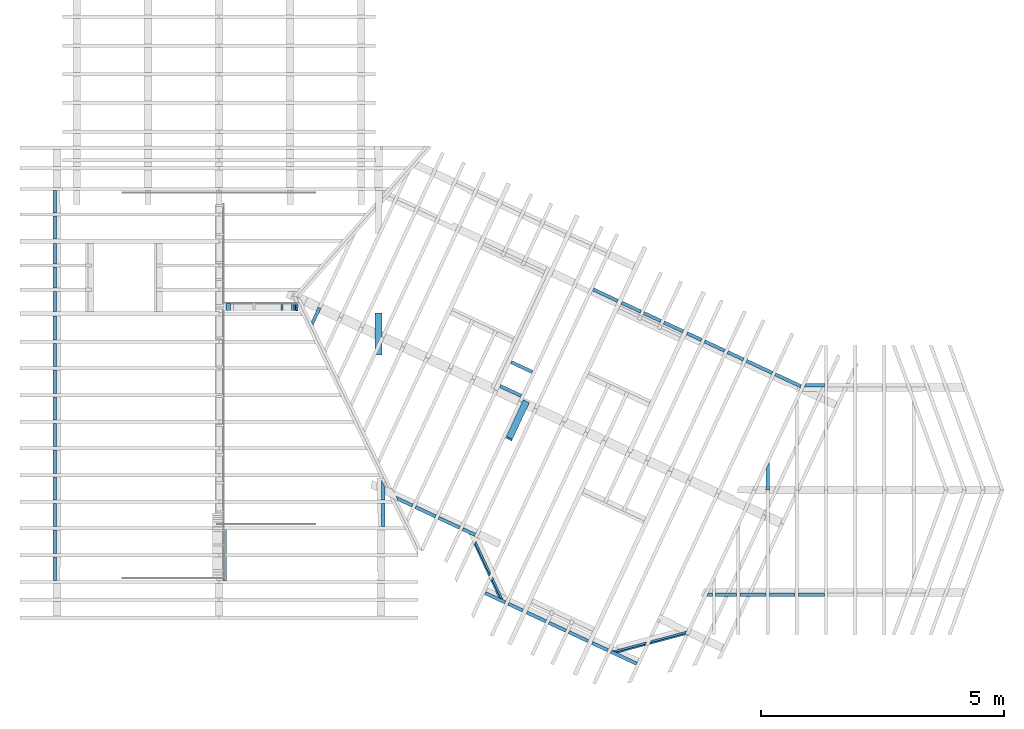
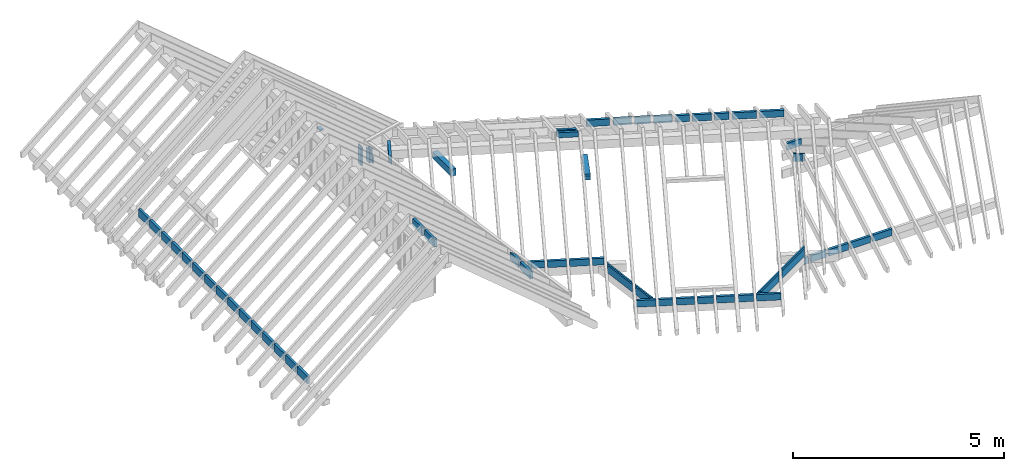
# One storey, part 8 of 11: 62 members.
"""IFC2X3 building model written with IfcOpenShell, lengths in metres."""

from ifc_helpers import new_model, si_unit, direction, frame, origin_with_axes, place, context, subcontext, project, spatial, faceted_brep, material, element, save


model = new_model("IFC2X3")

# Units and contexts
model_context = context("Model", 3, precision=1e-06, world=origin_with_axes(), true_north=direction((0.0, 1.0, 0.0)))
body_context = subcontext(model_context, "Body", "Model", "MODEL_VIEW")
ifc_project = project(units=[si_unit("LENGTHUNIT", "METRE"), si_unit("AREAUNIT", "SQUARE_METRE"), si_unit("VOLUMEUNIT", "CUBIC_METRE"), si_unit("PLANEANGLEUNIT", "RADIAN")], contexts=[model_context])

# Site, building, storey
site_placement = place(None, origin_with_axes())
site = spatial("IfcSite", under=ifc_project, at=site_placement, CompositionType="ELEMENT")
building_placement = place(site_placement, origin_with_axes())
building = spatial("IfcBuilding", under=site, at=building_placement, Name="Building 1", CompositionType="ELEMENT")
storey_placement = place(building_placement, origin_with_axes())
storey = spatial("IfcBuildingStorey", under=building, at=storey_placement, Name="Comble et couverture", CompositionType="ELEMENT", Elevation=0.0)

# Members
ifc_material_1 = material(Name="NH II")
member_1_placement = place(storey_placement, frame((-0.02, 3.1742093, 4.3328151), z_axis=(0.0, 0.0, 1.0), x_axis=(0.0, -1.0, 0.0)))
element("IfcMember", 1, at=member_1_placement, inside=storey, material=ifc_material_1, Name="Cache moineau", context=body_context, shape_type="Brep", body=[
    faceted_brep([(0.4775953, 0.035, -0.11), (0.4775953, 0.035, 0.11), (0.4775953, -0.035, 0.11), (0.4775953, -0.035, -0.11), (0.0, 0.035, 0.11), (0.0, -0.035, 0.11), (0.0, 0.035, -0.11), (0.0, -0.035, -0.11)], [[[0, 1, 2, 3]], [[2, 1, 4, 5]], [[1, 0, 6, 4]], [[5, 4, 6, 7]], [[3, 2, 5, 7]], [[0, 3, 7, 6]]]),
])
member_2_placement = place(storey_placement, frame((11.4234369, -1.5371509, 3.6092536), z_axis=(-0.3360717, -0.0900501, 0.9375216), x_axis=(0.9055763, 0.2426485, 0.347927)))
element("IfcMember", 2, at=member_2_placement, inside=storey, material=ifc_material_1, Name="Cache moineau", context=body_context, shape_type="Brep", body=[
    faceted_brep([(0.0747085, 0.0341609, 0.11), (0.0747085, 0.035, 0.11), (0.0, 0.035, -0.0913089), (0.0, 0.0341609, -0.0913089), (0.8413016, 0.035, 0.11), (0.7596566, 0.035, -0.11), (0.050365, 0.035, -0.11), (0.1253784, -0.0056999, 0.11), (0.8048744, -0.0056999, 0.11), (0.050365, -0.0109167, -0.11), (0.6970052, -0.035, -0.11), (0.080979, -0.035, -0.11), (0.7741415, -0.035, 0.0978509), (0.1581153, -0.035, 0.0978509)], [[[0, 1, 2, 3]], [[2, 1, 4, 5, 6]], [[1, 0, 7, 8, 4]], [[3, 2, 6, 9]], [[9, 6, 5, 10, 11]], [[10, 5, 4, 8, 12]], [[0, 3, 9, 11, 13, 7]], [[10, 12, 13, 11]], [[12, 8, 7, 13]]]),
])
member_3_placement = place(storey_placement, frame((12.9673592, 5.0279755, 4.2870549), z_axis=(0.0, 0.0, 1.0), x_axis=(0.9063078, -0.4226183, 0.0)))
element("IfcMember", 3, at=member_3_placement, inside=storey, material=ifc_material_1, Name="Cache moineau", context=body_context, shape_type="Brep", body=[
    faceted_brep([(0.0, 0.035, 0.096), (0.0, 0.035, -0.096), (0.0, -0.035, -0.096), (0.0, -0.035, 0.096), (0.3256193, 0.035, -0.096), (0.3256193, -0.035, -0.096), (0.3256193, 0.035, 0.096), (0.3256193, -0.035, 0.096)], [[[0, 1, 2, 3]], [[2, 1, 4, 5]], [[1, 0, 6, 4]], [[5, 4, 6, 7]], [[3, 2, 5, 7]], [[0, 3, 7, 6]]]),
])
member_4_placement = place(storey_placement, frame((6.728, 1.6014234, 4.3328151), z_axis=(0.0, 0.0, 1.0), x_axis=(0.0, 1.0, 0.0)))
element("IfcMember", 4, at=member_4_placement, inside=storey, material=ifc_material_1, Name="Cache moineau", context=body_context, shape_type="Brep", body=[
    faceted_brep([(0.0, 0.035, 0.11), (0.0, 0.035, -0.11), (0.0, -0.035, -0.11), (0.0, -0.035, 0.11), (0.4051521, 0.035, -0.11), (0.2602594, -0.035, -0.11), (0.4051521, 0.035, 0.11), (0.2602594, -0.035, 0.11)], [[[0, 1, 2, 3]], [[2, 1, 4, 5]], [[1, 0, 6, 4]], [[5, 4, 6, 7]], [[0, 3, 7, 6]], [[3, 2, 5, 7]]]),
])
member_5_placement = place(storey_placement, frame((11.0398183, 5.9268026, 4.2870549), z_axis=(0.0, 0.0, 1.0), x_axis=(0.9063078, -0.4226183, 0.0)))
element("IfcMember", 5, at=member_5_placement, inside=storey, material=ifc_material_1, Name="Cache moineau", context=body_context, shape_type="Brep", body=[
    faceted_brep([(0.552806, 0.035, 0.096), (0.552806, -0.035, 0.096), (0.552806, -0.035, -0.096), (0.552806, 0.035, -0.096), (0.0, -0.035, 0.096), (0.0, -0.035, -0.096), (0.0, 0.035, 0.096), (0.0, 0.035, -0.096)], [[[0, 1, 2, 3]], [[2, 1, 4, 5]], [[1, 0, 6, 4]], [[5, 4, 6, 7]], [[3, 2, 5, 7]], [[0, 3, 7, 6]]]),
])
member_6_placement = place(storey_placement, frame((13.484553, -0.3402201, 3.276), z_axis=(0.0, 0.0, 1.0), x_axis=(-1.0, 0.0, 0.0)))
element("IfcMember", 6, at=member_6_placement, inside=storey, material=ifc_material_1, Name="Cache moineau", context=body_context, shape_type="Brep", body=[
    faceted_brep([(0.0, -0.035, -0.096), (0.0, -0.035, 0.096), (0.0, 0.035, 0.096), (0.0, 0.035, -0.096), (0.0812557, -0.035, 0.096), (0.1138973, 0.035, 0.096), (0.0812557, -0.035, -0.096), (0.1138973, 0.035, -0.096)], [[[0, 1, 2, 3]], [[2, 1, 4, 5]], [[1, 0, 6, 4]], [[0, 3, 7, 6]], [[3, 2, 5, 7]], [[5, 4, 6, 7]]]),
])
member_7_placement = place(storey_placement, frame((13.554553, -0.3402201, 3.276), z_axis=(0.0, 0.0, 1.0), x_axis=(1.0, 0.0, 0.0)))
element("IfcMember", 7, at=member_7_placement, inside=storey, material=ifc_material_1, Name="Cache moineau", context=body_context, shape_type="Brep", body=[
    faceted_brep([(0.0, 0.035, -0.096), (0.0, -0.035, -0.096), (0.0, -0.035, 0.096), (0.0, 0.035, 0.096), (0.43, -0.035, -0.096), (0.43, -0.035, 0.096), (0.43, 0.035, -0.096), (0.43, 0.035, 0.096)], [[[0, 1, 2, 3]], [[2, 1, 4, 5]], [[1, 0, 6, 4]], [[5, 4, 6, 7]], [[3, 2, 5, 7]], [[0, 3, 7, 6]]]),
])
ifc_material_2 = material(Name="Epicéa C24")
member_8_placement = place(storey_placement, frame((4.9534144, 5.5627176, 5.6894456), z_axis=(0.0, 1.0, 0.0), x_axis=(0.0, 0.0, -1.0)))
element("IfcMember", 8, at=member_8_placement, inside=storey, material=ifc_material_2, Name="Montant", context=body_context, shape_type="Brep", body=[
    faceted_brep([(0.0, 0.0192672, -0.0725), (0.0, 0.0192672, 0.0725), (0.1901403, 0.0192672, 0.0725), (0.1901403, 0.0192672, -0.0725), (0.0, -0.0192672, 0.0725), (0.1901403, -0.0192672, 0.0725), (0.0, -0.0192672, -0.0725), (0.1901403, -0.0192672, -0.0725)], [[[0, 1, 2, 3]], [[2, 1, 4, 5]], [[1, 0, 6, 4]], [[4, 6, 7, 5]], [[0, 3, 7, 6]], [[3, 2, 5, 7]]]),
])
member_9_placement = place(storey_placement, frame((3.4689187, 0.9838281, 7.0673725), z_axis=(0.0, 0.0, 1.0), x_axis=(0.0, -1.0, 0.0)))
element("IfcMember", 9, at=member_9_placement, inside=storey, material=ifc_material_1, Name="Cache moineau", context=body_context, shape_type="Brep", body=[
    faceted_brep([(0.4804141, 0.035, -0.11), (0.4804141, 0.035, 0.11), (0.4804141, -0.035, 0.11), (0.4804141, -0.035, -0.11), (0.0, 0.035, 0.11), (0.0, -0.035, 0.11), (0.0, 0.035, -0.11), (0.0, -0.035, -0.11)], [[[0, 1, 2, 3]], [[2, 1, 4, 5]], [[1, 0, 6, 4]], [[5, 4, 6, 7]], [[3, 2, 5, 7]], [[0, 3, 7, 6]]]),
])
member_10_placement = place(storey_placement, frame((4.9116472, 5.5627176, 5.9287735), z_axis=(0.0, 1.0, 0.0), x_axis=(0.0, 0.0, -1.0)))
element("IfcMember", 10, at=member_10_placement, inside=storey, material=ifc_material_2, Name="Montant", context=body_context, shape_type="Brep", body=[
    faceted_brep([(0.0, 0.0225, -0.0725), (0.0, -0.0225, -0.0725), (0.0, -0.0225, 0.0725), (0.0, 0.0225, 0.0725), (0.3844682, -0.0225, -0.0725), (0.3844682, -0.0225, 0.0725), (0.3844682, 0.0225, -0.0725), (0.3844682, 0.0225, 0.0725)], [[[0, 1, 2, 3]], [[2, 1, 4, 5]], [[1, 0, 6, 4]], [[0, 3, 7, 6]], [[3, 2, 5, 7]], [[4, 6, 7, 5]]]),
])
member_11_placement = place(storey_placement, frame((8.3589629, 1.0034938, 4.1946408), z_axis=(0.0, 0.0, 1.0), x_axis=(0.9063078, -0.4226183, 0.0)))
element("IfcMember", 11, at=member_11_placement, inside=storey, material=ifc_material_1, Name="Cache moineau", context=body_context, shape_type="Brep", body=[
    faceted_brep([(0.0, -0.035, 0.096), (0.0, 0.035, 0.096), (0.0, 0.035, -0.096), (0.0, -0.035, -0.096), (0.279, 0.035, 0.096), (0.279, 0.035, -0.096), (0.279, -0.035, 0.096), (0.279, -0.035, -0.096)], [[[0, 1, 2, 3]], [[2, 1, 4, 5]], [[1, 0, 6, 4]], [[0, 3, 7, 6]], [[3, 2, 5, 7]], [[5, 4, 6, 7]]]),
])
member_12_placement = place(storey_placement, frame((-0.02, 6.8655905, 4.3328151), z_axis=(0.0, 0.0, 1.0), x_axis=(0.0, -1.0, 0.0)))
element("IfcMember", 12, at=member_12_placement, inside=storey, material=ifc_material_1, Name="Cache moineau", context=body_context, shape_type="Brep", body=[
    faceted_brep([(0.413, -0.035, 0.11), (0.413, 0.035, 0.11), (0.0, 0.035, 0.11), (0.0, -0.035, 0.11), (0.413, 0.035, -0.11), (0.0, 0.035, -0.11), (0.413, -0.035, -0.11), (0.0, -0.035, -0.11)], [[[0, 1, 2, 3]], [[1, 4, 5, 2]], [[4, 6, 7, 5]], [[6, 0, 3, 7]], [[0, 6, 4, 1]], [[5, 7, 3, 2]]]),
])
member_13_placement = place(storey_placement, frame((-0.02, 5.3835905, 4.3328151), z_axis=(0.0, 0.0, 1.0), x_axis=(0.0, -1.0, 0.0)))
element("IfcMember", 13, at=member_13_placement, inside=storey, material=ifc_material_1, Name="Cache moineau", context=body_context, shape_type="Brep", body=[
    faceted_brep([(0.4965953, -0.035, -0.11), (0.4965953, -0.035, 0.11), (0.0, -0.035, 0.11), (0.0, -0.035, -0.11), (0.4965953, 0.035, -0.11), (0.0, 0.035, -0.11), (0.4965953, 0.035, 0.11), (0.0, 0.035, 0.11)], [[[0, 1, 2, 3]], [[4, 0, 3, 5]], [[6, 4, 5, 7]], [[1, 6, 7, 2]], [[4, 6, 1, 0]], [[2, 7, 5, 3]]]),
])
member_14_placement = place(storey_placement, frame((15.784553, 3.9597799, 3.276), z_axis=(0.0, 0.0, 1.0), x_axis=(-1.0, 0.0, 0.0)))
element("IfcMember", 14, at=member_14_placement, inside=storey, material=ifc_material_1, Name="Cache moineau", context=body_context, shape_type="Brep", body=[
    faceted_brep([(0.0, -0.035, -0.096), (0.0, -0.035, 0.096), (0.0, 0.035, 0.096), (0.0, 0.035, -0.096), (0.3761328, -0.035, 0.096), (0.4087743, 0.035, 0.096), (0.3761328, -0.035, -0.096), (0.4087743, 0.035, -0.096)], [[[0, 1, 2, 3]], [[2, 1, 4, 5]], [[1, 0, 6, 4]], [[0, 3, 7, 6]], [[3, 2, 5, 7]], [[5, 4, 6, 7]]]),
])
member_15_placement = place(storey_placement, frame((6.626, 5.4452176, 5.206), z_axis=(0.0, 0.0, 1.0), x_axis=(0.0, -1.0, 0.0)))
element("IfcMember", 15, at=member_15_placement, inside=storey, material=ifc_material_2, Name="Linteau", context=body_context, shape_type="Brep", body=[
    faceted_brep([(0.87, 0.07, -0.1), (0.87, 0.07, 0.1), (0.87, -0.07, 0.1), (0.87, -0.07, -0.1), (0.0, 0.07, 0.1), (0.0, 0.07, -0.1), (0.0, -0.07, -0.1), (0.0, -0.07, 0.1)], [[[0, 1, 2, 3]], [[4, 5, 6, 7]], [[3, 6, 5, 0]], [[2, 7, 6, 3]], [[1, 4, 7, 2]], [[0, 5, 4, 1]]]),
])
member_16_placement = place(storey_placement, frame((-0.02, 6.3825905, 4.3328151), z_axis=(0.0, 0.0, 1.0), x_axis=(0.0, -1.0, 0.0)))
element("IfcMember", 16, at=member_16_placement, inside=storey, material=ifc_material_1, Name="Cache moineau", context=body_context, shape_type="Brep", body=[
    faceted_brep([(0.424, 0.035, -0.11), (0.424, -0.035, -0.11), (0.0, -0.035, -0.11), (0.0, 0.035, -0.11), (0.424, -0.035, 0.11), (0.0, -0.035, 0.11), (0.424, 0.035, 0.11), (0.0, 0.035, 0.11)], [[[0, 1, 2, 3]], [[1, 4, 5, 2]], [[4, 6, 7, 5]], [[6, 0, 3, 7]], [[0, 6, 4, 1]], [[5, 7, 3, 2]]]),
])
member_17_placement = place(storey_placement, frame((12.0800838, 5.4417188, 4.2870549), z_axis=(0.0, 0.0, 1.0), x_axis=(0.9063078, -0.4226183, 0.0)))
element("IfcMember", 17, at=member_17_placement, inside=storey, material=ifc_material_1, Name="Cache moineau", context=body_context, shape_type="Brep", body=[
    faceted_brep([(0.384, -0.035, -0.096), (0.384, 0.035, -0.096), (0.384, 0.035, 0.096), (0.384, -0.035, 0.096), (0.0, 0.035, -0.096), (0.0, 0.035, 0.096), (0.0, -0.035, -0.096), (0.0, -0.035, 0.096)], [[[0, 1, 2, 3]], [[2, 1, 4, 5]], [[1, 0, 6, 4]], [[5, 4, 6, 7]], [[3, 2, 5, 7]], [[0, 3, 7, 6]]]),
])
for number, where, z_axis, x_axis in (
    (18, (14.654553, -0.3402201, 3.276), (0.0, 0.0, 1.0), (1.0, 0.0, 0.0)),
    (19, (15.254553, -0.3402201, 3.276), (0.0, 0.0, 1.0), (1.0, 0.0, 0.0)),
):
    element("IfcMember", number, at=place(storey_placement, frame(where, z_axis=z_axis, x_axis=x_axis)), inside=storey, material=ifc_material_1, Name="Cache moineau", context=body_context, shape_type="Brep", body=[
        faceted_brep([(0.0, -0.035, 0.096), (0.0, 0.035, 0.096), (0.0, 0.035, -0.096), (0.0, -0.035, -0.096), (0.53, 0.035, 0.096), (0.53, 0.035, -0.096), (0.53, -0.035, 0.096), (0.53, -0.035, -0.096)], [[[0, 1, 2, 3]], [[2, 1, 4, 5]], [[1, 0, 6, 4]], [[5, 4, 6, 7]], [[3, 2, 5, 7]], [[0, 3, 7, 6]]]),
    ])
member_18_placement = place(storey_placement, frame((10.5404665, -1.1126276, 3.6196496), z_axis=(0.0, 0.0, 1.0), x_axis=(0.9063078, -0.4226183, 0.0)))
element("IfcMember", 20, at=member_18_placement, inside=storey, material=ifc_material_1, Name="Cache moineau", context=body_context, shape_type="Brep", body=[
    faceted_brep([(0.433, 0.035, 0.096), (0.433, -0.035, 0.096), (0.433, -0.035, -0.096), (0.433, 0.035, -0.096), (0.0, -0.035, 0.096), (0.0, -0.035, -0.096), (0.0, 0.035, 0.096), (0.0, 0.035, -0.096)], [[[0, 1, 2, 3]], [[2, 1, 4, 5]], [[1, 0, 6, 4]], [[5, 4, 6, 7]], [[3, 2, 5, 7]], [[0, 3, 7, 6]]]),
])
member_19_placement = place(storey_placement, frame((-0.02, 7.955, 4.3328151), z_axis=(0.0, 0.0, 1.0), x_axis=(0.0, -1.0, 0.0)))
element("IfcMember", 21, at=member_19_placement, inside=storey, material=ifc_material_1, Name="Cache moineau", context=body_context, shape_type="Brep", body=[
    faceted_brep([(0.4542048, -0.035, 0.11), (0.4542048, -0.035, -0.11), (0.4542048, 0.035, -0.11), (0.4542048, 0.035, 0.11), (0.0, -0.035, -0.11), (0.0, 0.035, -0.11), (0.0, -0.035, 0.11), (0.0, 0.035, 0.11)], [[[0, 1, 2, 3]], [[2, 1, 4, 5]], [[1, 0, 6, 4]], [[5, 4, 6, 7]], [[3, 2, 5, 7]], [[0, 3, 7, 6]]]),
])
member_20_placement = place(storey_placement, frame((7.3248657, 1.4857012, 4.1946408), z_axis=(0.0, 0.0, -1.0), x_axis=(-0.9063078, 0.4226183, 0.0)))
element("IfcMember", 22, at=member_20_placement, inside=storey, material=ifc_material_1, Name="Cache moineau", context=body_context, shape_type="Brep", body=[
    faceted_brep([(0.0, -0.035, -0.096), (0.0, -0.035, 0.096), (0.0, 0.035, 0.096), (0.0, 0.035, -0.096), (0.3088245, -0.035, 0.096), (0.39461, 0.035, 0.096), (0.3088245, -0.035, -0.096), (0.39461, 0.035, -0.096)], [[[0, 1, 2, 3]], [[2, 1, 4, 5]], [[1, 0, 6, 4]], [[5, 4, 6, 7]], [[0, 3, 7, 6]], [[3, 2, 5, 7]]]),
])
member_21_placement = place(storey_placement, frame((-0.02, 7.4307952, 4.3328151), z_axis=(0.0, 0.0, 1.0), x_axis=(0.0, -1.0, 0.0)))
element("IfcMember", 23, at=member_21_placement, inside=storey, material=ifc_material_1, Name="Cache moineau", context=body_context, shape_type="Brep", body=[
    faceted_brep([(0.4732048, 0.035, -0.11), (0.4732048, -0.035, -0.11), (0.0, -0.035, -0.11), (0.0, 0.035, -0.11), (0.4732048, -0.035, 0.11), (0.0, -0.035, 0.11), (0.4732048, 0.035, 0.11), (0.0, 0.035, 0.11)], [[[0, 1, 2, 3]], [[1, 4, 5, 2]], [[4, 6, 7, 5]], [[6, 0, 3, 7]], [[0, 6, 4, 1]], [[5, 7, 3, 2]]]),
])
member_22_placement = place(storey_placement, frame((-0.02, 5.8885905, 4.3328151), z_axis=(0.0, 0.0, 1.0), x_axis=(0.0, -1.0, 0.0)))
element("IfcMember", 24, at=member_22_placement, inside=storey, material=ifc_material_1, Name="Cache moineau", context=body_context, shape_type="Brep", body=[
    faceted_brep([(0.413, -0.035, 0.11), (0.413, 0.035, 0.11), (0.0, 0.035, 0.11), (0.0, -0.035, 0.11), (0.413, 0.035, -0.11), (0.0, 0.035, -0.11), (0.413, -0.035, -0.11), (0.0, -0.035, -0.11)], [[[0, 1, 2, 3]], [[1, 4, 5, 2]], [[4, 6, 7, 5]], [[6, 0, 3, 7]], [[0, 6, 4, 1]], [[5, 7, 3, 2]]]),
])
for number, where, z_axis, x_axis in (
    (25, (-0.02, 2.626614, 4.3328151), (0.0, 0.0, 1.0), (0.0, -1.0, 0.0)),
    (26, (-0.02, 2.0790187, 4.3328151), (0.0, 0.0, 1.0), (0.0, -1.0, 0.0)),
    (27, (-0.02, 3.7218046, 4.3328151), (0.0, 0.0, 1.0), (0.0, -1.0, 0.0)),
    (28, (-0.02, 4.8169952, 4.3328151), (0.0, 0.0, 1.0), (0.0, -1.0, 0.0)),
    (29, (-0.02, 4.2693999, 4.3328151), (0.0, 0.0, 1.0), (0.0, -1.0, 0.0)),
):
    element("IfcMember", number, at=place(storey_placement, frame(where, z_axis=z_axis, x_axis=x_axis)), inside=storey, material=ifc_material_1, Name="Cache moineau", context=body_context, shape_type="Brep", body=[
        faceted_brep([(0.4775953, 0.035, -0.11), (0.4775953, 0.035, 0.11), (0.4775953, -0.035, 0.11), (0.4775953, -0.035, -0.11), (0.0, 0.035, 0.11), (0.0, -0.035, 0.11), (0.0, 0.035, -0.11), (0.0, -0.035, -0.11)], [[[0, 1, 2, 3]], [[2, 1, 4, 5]], [[1, 0, 6, 4]], [[5, 4, 6, 7]], [[3, 2, 5, 7]], [[0, 3, 7, 6]]]),
    ])
member_23_placement = place(storey_placement, frame((-0.02, 0.9838281, 4.3328151), z_axis=(0.0, 0.0, 1.0), x_axis=(0.0, -1.0, 0.0)))
element("IfcMember", 30, at=member_23_placement, inside=storey, material=ifc_material_1, Name="Cache moineau", context=body_context, shape_type="Brep", body=[
    faceted_brep([(0.4804141, 0.035, -0.11), (0.4804141, 0.035, 0.11), (0.4804141, -0.035, 0.11), (0.4804141, -0.035, -0.11), (0.0, 0.035, 0.11), (0.0, -0.035, 0.11), (0.0, 0.035, -0.11), (0.0, -0.035, -0.11)], [[[0, 1, 2, 3]], [[2, 1, 4, 5]], [[1, 0, 6, 4]], [[5, 4, 6, 7]], [[3, 2, 5, 7]], [[0, 3, 7, 6]]]),
])
member_24_placement = place(storey_placement, frame((-0.02, 1.5314234, 4.3328151), z_axis=(0.0, 0.0, 1.0), x_axis=(0.0, -1.0, 0.0)))
element("IfcMember", 31, at=member_24_placement, inside=storey, material=ifc_material_1, Name="Cache moineau", context=body_context, shape_type="Brep", body=[
    faceted_brep([(0.4775953, 0.035, -0.11), (0.4775953, 0.035, 0.11), (0.4775953, -0.035, 0.11), (0.4775953, -0.035, -0.11), (0.0, 0.035, 0.11), (0.0, -0.035, 0.11), (0.0, 0.035, -0.11), (0.0, -0.035, -0.11)], [[[0, 1, 2, 3]], [[2, 1, 4, 5]], [[1, 0, 6, 4]], [[5, 4, 6, 7]], [[3, 2, 5, 7]], [[0, 3, 7, 6]]]),
])
member_25_placement = place(storey_placement, frame((3.5848239, 5.5627176, 6.9629713), z_axis=(0.0, -1.0, 0.0), x_axis=(-1.0, 0.0, 0.0)))
element("IfcMember", 32, at=member_25_placement, inside=storey, material=ifc_material_2, Name="Montant", context=body_context, shape_type="Brep", body=[
    faceted_brep([(0.0918239, -0.0225, 0.0725), (0.0918239, -0.0225, -0.0725), (0.0918239, 0.0225, -0.0725), (0.0918239, 0.0225, 0.0725), (0.0, -0.0225, -0.0725), (0.0, 0.0225, -0.0725), (0.0, -0.0225, 0.0725), (0.0, 0.0225, 0.0725)], [[[0, 1, 2, 3]], [[2, 1, 4, 5]], [[1, 0, 6, 4]], [[5, 4, 6, 7]], [[3, 2, 5, 7]], [[0, 3, 7, 6]]]),
])
member_26_placement = place(storey_placement, frame((12.1428933, -1.3443732, 3.8856724), z_axis=(-0.3360717, -0.0900501, 0.9375216), x_axis=(0.9055763, 0.2426485, 0.347927)))
element("IfcMember", 33, at=member_26_placement, inside=storey, material=ifc_material_1, Name="Cache moineau", context=body_context, shape_type="Brep", body=[
    faceted_brep([(0.8765088, 0.035, -0.0981233), (0.8263508, -0.0287596, -0.079509), (0.7551125, 0.035, -0.0530715), (0.8150352, -0.0287596, -0.11), (0.7339856, 0.035, -0.11), (0.9537462, 0.035, 0.11), (0.9173191, -0.0056999, 0.11), (0.8865862, -0.035, 0.0978509), (0.8094499, -0.035, -0.11), (0.0626513, 0.035, -0.11), (0.1442963, 0.035, 0.11), (0.0, -0.035, -0.11), (0.0771363, -0.035, 0.0978509), (0.1078692, -0.0056999, 0.11)], [[[0, 1, 2]], [[1, 3, 4, 2]], [[3, 1, 0, 5, 6, 7, 8]], [[0, 2, 4, 9, 10, 5]], [[4, 3, 8, 11, 9]], [[8, 7, 12, 11]], [[7, 6, 13, 12]], [[6, 5, 10, 13]], [[13, 10, 9, 11, 12]]]),
])
member_27_placement = place(storey_placement, frame((14.054553, -0.3402201, 3.276), z_axis=(0.0, 0.0, 1.0), x_axis=(1.0, 0.0, 0.0)))
element("IfcMember", 34, at=member_27_placement, inside=storey, material=ifc_material_1, Name="Cache moineau", context=body_context, shape_type="Brep", body=[
    faceted_brep([(0.0, -0.035, 0.096), (0.0, 0.035, 0.096), (0.0, 0.035, -0.096), (0.0, -0.035, -0.096), (0.53, 0.035, 0.096), (0.53, 0.035, -0.096), (0.53, -0.035, 0.096), (0.53, -0.035, -0.096)], [[[0, 1, 2, 3]], [[2, 1, 4, 5]], [[1, 0, 6, 4]], [[5, 4, 6, 7]], [[3, 2, 5, 7]], [[0, 3, 7, 6]]]),
])
member_28_placement = place(storey_placement, frame((-0.02, 0.4334141, 4.3328151), z_axis=(0.0, 0.0, 1.0), x_axis=(0.0, -1.0, 0.0)))
element("IfcMember", 35, at=member_28_placement, inside=storey, material=ifc_material_1, Name="Cache moineau", context=body_context, shape_type="Brep", body=[
    faceted_brep([(0.4804141, 0.035, -0.11), (0.4804141, 0.035, 0.11), (0.4804141, -0.035, 0.11), (0.4804141, -0.035, -0.11), (0.0, 0.035, 0.11), (0.0, -0.035, 0.11), (0.0, 0.035, -0.11), (0.0, -0.035, -0.11)], [[[0, 1, 2, 3]], [[2, 1, 4, 5]], [[1, 0, 6, 4]], [[5, 4, 6, 7]], [[3, 2, 5, 7]], [[0, 3, 7, 6]]]),
])
member_29_placement = place(storey_placement, frame((9.6673369, 3.6318459, 5.176), z_axis=(0.0, 0.0, 1.0), x_axis=(-0.4226183, -0.9063078, 0.0)))
element("IfcMember", 36, at=member_29_placement, inside=storey, material=ifc_material_2, Name="Linteau", context=body_context, shape_type="Brep", body=[
    faceted_brep([(0.87, -0.07, 0.0476007), (0.87, 0.07, 0.0476007), (0.8312032, 0.07, 0.07), (0.8312032, -0.07, 0.07), (0.87, 0.07, -0.07), (0.0, 0.07, -0.07), (0.0, 0.07, 0.07), (0.87, -0.07, -0.07), (0.0, -0.07, -0.07), (0.0, -0.07, 0.07)], [[[0, 1, 2, 3]], [[2, 1, 4, 5, 6]], [[1, 0, 7, 4]], [[5, 8, 9, 6]], [[0, 3, 9, 8, 7]], [[3, 2, 6, 9]], [[7, 8, 5, 4]]]),
])
member_30_placement = place(storey_placement, frame((4.646, 5.5627176, 6.1139186), z_axis=(0.0, 1.0, 0.0), x_axis=(0.0, 0.0, -1.0)))
element("IfcMember", 37, at=member_30_placement, inside=storey, material=ifc_material_2, Name="Montant", context=body_context, shape_type="Brep", body=[
    faceted_brep([(0.0377595, -0.0225, -0.0725), (0.0377595, -0.0225, 0.0725), (0.0, 0.0225, 0.0725), (0.0, 0.0225, -0.0725), (0.5696133, -0.0225, 0.0725), (0.5696133, 0.0225, 0.0725), (0.5696133, -0.0225, -0.0725), (0.5696133, 0.0225, -0.0725)], [[[0, 1, 2, 3]], [[2, 1, 4, 5]], [[1, 0, 6, 4]], [[3, 2, 5, 7]], [[0, 3, 7, 6]], [[6, 7, 5, 4]]]),
])
member_31_placement = place(storey_placement, frame((6.728, 1.5314234, 4.3328151), z_axis=(0.0, 0.0, 1.0), x_axis=(0.0, -1.0, 0.0)))
element("IfcMember", 38, at=member_31_placement, inside=storey, material=ifc_material_1, Name="Cache moineau", context=body_context, shape_type="Brep", body=[
    faceted_brep([(0.4775953, 0.035, -0.11), (0.4775953, 0.035, 0.11), (0.4775953, -0.035, 0.11), (0.4775953, -0.035, -0.11), (0.0, 0.035, 0.11), (0.0, -0.035, 0.11), (0.0, 0.035, -0.11), (0.0, -0.035, -0.11)], [[[0, 1, 2, 3]], [[2, 1, 4, 5]], [[1, 0, 6, 4]], [[5, 4, 6, 7]], [[3, 2, 5, 7]], [[0, 3, 7, 6]]]),
])
member_32_placement = place(storey_placement, frame((11.402106, -1.5144167, 3.6196496), z_axis=(0.0, 0.0, 1.0), x_axis=(0.9063078, -0.4226183, 0.0)))
element("IfcMember", 39, at=member_32_placement, inside=storey, material=ifc_material_1, Name="Cache moineau", context=body_context, shape_type="Brep", body=[
    faceted_brep([(0.0, -0.035, -0.096), (0.0, -0.035, 0.096), (0.0, 0.035, 0.096), (0.0, 0.035, -0.096), (0.5813333, -0.035, 0.096), (0.5813333, 0.035, 0.096), (0.5813333, -0.035, -0.096), (0.5813333, 0.035, -0.096)], [[[0, 1, 2, 3]], [[2, 1, 4, 5]], [[1, 0, 6, 4]], [[0, 3, 7, 6]], [[3, 2, 5, 7]], [[7, 5, 4, 6]]]),
])
member_33_placement = place(storey_placement, frame((11.4104971, -1.5048178, 3.6176891), z_axis=(-0.3360717, -0.0900501, 0.9375216), x_axis=(0.9055763, 0.2426485, 0.347927)))
element("IfcMember", 40, at=member_33_placement, inside=storey, material=ifc_material_1, Name="Cache moineau", context=body_context, shape_type="Brep", body=[
    faceted_brep([(0.075646, 0.0004195, 0.1006544), (0.075646, -0.0004195, 0.1006544), (0.0009375, -0.0004195, -0.1006544), (0.0009375, 0.0004195, -0.1006544), (0.0745793, 0.0004195, 0.1006544), (0.0, 0.0004195, -0.1003065)], [[[0, 1, 2, 3]], [[2, 1, 4, 5]], [[1, 0, 4]], [[3, 2, 5]], [[0, 3, 5, 4]]]),
])
member_34_placement = place(storey_placement, frame((3.4689187, 0.4334141, 7.0673725), z_axis=(0.0, 0.0, 1.0), x_axis=(0.0, -1.0, 0.0)))
element("IfcMember", 41, at=member_34_placement, inside=storey, material=ifc_material_1, Name="Cache moineau", context=body_context, shape_type="Brep", body=[
    faceted_brep([(0.4804141, 0.035, -0.11), (0.4804141, 0.035, 0.11), (0.4804141, -0.035, 0.11), (0.4804141, -0.035, -0.11), (0.0, 0.035, 0.11), (0.0, -0.035, 0.11), (0.0, 0.035, -0.11), (0.0, -0.035, -0.11)], [[[0, 1, 2, 3]], [[2, 1, 4, 5]], [[1, 0, 6, 4]], [[5, 4, 6, 7]], [[3, 2, 5, 7]], [[0, 3, 7, 6]]]),
])
member_35_placement = place(storey_placement, frame((9.2946383, -0.5316884, 3.6196496), z_axis=(0.0, 0.0, 1.0), x_axis=(0.9063078, -0.4226183, 0.0)))
element("IfcMember", 42, at=member_35_placement, inside=storey, material=ifc_material_1, Name="Cache moineau", context=body_context, shape_type="Brep", body=[
    faceted_brep([(0.0, 0.035, 0.096), (0.0, 0.035, -0.096), (0.0, -0.035, -0.096), (0.0, -0.035, 0.096), (0.3256193, 0.035, -0.096), (0.3256193, -0.035, -0.096), (0.3256193, 0.035, 0.096), (0.3256193, -0.035, 0.096)], [[[0, 1, 2, 3]], [[2, 1, 4, 5]], [[1, 0, 6, 4]], [[5, 4, 6, 7]], [[3, 2, 5, 7]], [[0, 3, 7, 6]]]),
])
member_36_placement = place(storey_placement, frame((9.3556955, 4.4329398, 5.4904256), z_axis=(0.0, 0.0, 1.0), x_axis=(0.9063078, -0.4226183, 0.0)))
element("IfcMember", 43, at=member_36_placement, inside=storey, material=ifc_material_1, Name="Chevetre", context=body_context, shape_type="Brep", body=[
    faceted_brep([(0.0, -0.035, -0.096), (0.0, -0.035, 0.096), (0.0, 0.035, 0.096), (0.0, 0.035, -0.096), (0.476, -0.035, 0.096), (0.476, 0.035, 0.096), (0.476, -0.035, -0.096), (0.476, 0.035, -0.096)], [[[0, 1, 2, 3]], [[2, 1, 4, 5]], [[1, 0, 6, 4]], [[0, 3, 7, 6]], [[7, 5, 4, 6]], [[3, 2, 5, 7]]]),
])
member_37_placement = place(storey_placement, frame((14.77786, 4.1837251, 4.2870549), z_axis=(0.0, 0.0, 1.0), x_axis=(0.9063078, -0.4226183, 0.0)))
element("IfcMember", 44, at=member_37_placement, inside=storey, material=ifc_material_1, Name="Cache moineau", context=body_context, shape_type="Brep", body=[
    faceted_brep([(0.0, -0.035, -0.096), (0.0, -0.035, 0.096), (0.0, 0.035, 0.096), (0.0, 0.035, -0.096), (0.5813333, -0.035, 0.096), (0.5813333, 0.035, 0.096), (0.5813333, -0.035, -0.096), (0.5813333, 0.035, -0.096)], [[[0, 1, 2, 3]], [[2, 1, 4, 5]], [[1, 0, 6, 4]], [[0, 3, 7, 6]], [[3, 2, 5, 7]], [[7, 5, 4, 6]]]),
])
member_38_placement = place(storey_placement, frame((5.4366339, 5.590734, 5.8872288), z_axis=(-0.2113091, -0.4531539, 0.8660254), x_axis=(-0.3659982, -0.7848856, -0.5)))
element("IfcMember", 45, at=member_38_placement, inside=storey, material=ifc_material_1, Name="Chevron", context=body_context, shape_type="Brep", body=[
    faceted_brep([(0.4812955, -0.035, -0.096), (0.5472511, 0.035, -0.096), (0.4363998, 0.035, 0.096), (0.3704442, -0.035, 0.096), (0.2227223, 0.035, -0.096), (0.2044294, 0.035, -0.0643158), (0.1495072, 0.035, -0.096), (0.1108513, 0.035, -0.096), (0.0, 0.035, 0.096), (0.2227223, -0.035, -0.096), (0.2044294, -0.035, -0.0643158), (0.1495702, -0.035, -0.096), (0.1108513, -0.035, -0.096), (0.0, -0.035, 0.096)], [[[0, 1, 2, 3]], [[2, 1, 4, 5, 6, 7, 8]], [[1, 0, 9, 4]], [[9, 10, 5, 4]], [[10, 11, 6, 5]], [[6, 11, 12, 7]], [[12, 13, 8, 7]], [[3, 2, 8, 13]], [[0, 3, 13, 12, 11, 10, 9]]]),
])
member_39_placement = place(storey_placement, frame((8.9257594, 0.0421102, 3.8261829), z_axis=(0.1470403, -0.315329, 0.9375216), x_axis=(0.3962138, -0.8496831, -0.347927)))
element("IfcMember", 46, at=member_39_placement, inside=storey, material=ifc_material_1, Name="Cache moineau", context=body_context, shape_type="Brep", body=[
    faceted_brep([(0.0, 0.035, 0.11), (0.081645, 0.035, -0.11), (0.1442963, -0.035, -0.11), (0.06716, -0.035, 0.0978509), (0.0364271, -0.0056999, 0.11), (0.5425117, -0.035, -0.11), (0.4653754, -0.035, 0.0978509), (0.5731258, 0.035, -0.11), (0.5731258, -0.0109167, -0.11), (0.5498489, 0.035, 0.11), (0.6244283, 0.035, -0.0909609), (0.4981123, -0.0056999, 0.11)], [[[0, 1, 2, 3, 4]], [[3, 2, 5, 6]], [[2, 1, 7, 8, 5]], [[1, 0, 9, 10, 7]], [[0, 4, 11, 9]], [[4, 3, 6, 11]], [[10, 8, 7]], [[8, 10, 9, 11, 6, 5]]]),
])
member_40_placement = place(storey_placement, frame((11.412844, -1.504189, 3.5908343), z_axis=(-0.3360717, -0.0900501, 0.9375216), x_axis=(0.9055763, 0.2426485, 0.347927)))
element("IfcMember", 47, at=member_40_placement, inside=storey, material=ifc_material_1, Name="Cache moineau", context=body_context, shape_type="Brep", body=[
    faceted_brep([(0.0010666, 0.0004195, -0.0933232), (0.0010666, -0.0004195, -0.0933232), (0.0, 0.0004195, -0.0933232), (0.0703337, -0.0004195, 0.0933232), (0.0692671, 0.0004195, 0.0933232), (0.0703337, 0.0004195, 0.0933232)], [[[0, 1, 2]], [[2, 1, 3, 4]], [[1, 0, 5, 3]], [[3, 5, 4]], [[0, 2, 4, 5]]]),
])
member_41_placement = place(storey_placement, frame((13.325912, 4.8607796, 4.2870549), z_axis=(0.0, 0.0, 1.0), x_axis=(0.9063078, -0.4226183, 0.0)))
element("IfcMember", 48, at=member_41_placement, inside=storey, material=ifc_material_1, Name="Cache moineau", context=body_context, shape_type="Brep", body=[
    faceted_brep([(0.455, -0.035, -0.096), (0.455, 0.035, -0.096), (0.455, 0.035, 0.096), (0.455, -0.035, 0.096), (0.0, 0.035, -0.096), (0.0, 0.035, 0.096), (0.0, -0.035, -0.096), (0.0, -0.035, 0.096)], [[[0, 1, 2, 3]], [[2, 1, 4, 5]], [[1, 0, 6, 4]], [[5, 4, 6, 7]], [[0, 3, 7, 6]], [[3, 2, 5, 7]]]),
])
member_42_placement = place(storey_placement, frame((9.67313, -0.7081819, 3.6196496), z_axis=(0.0, 0.0, 1.0), x_axis=(0.9063078, -0.4226183, 0.0)))
element("IfcMember", 49, at=member_42_placement, inside=storey, material=ifc_material_1, Name="Cache moineau", context=body_context, shape_type="Brep", body=[
    faceted_brep([(0.433, 0.035, 0.096), (0.433, -0.035, 0.096), (0.433, -0.035, -0.096), (0.433, 0.035, -0.096), (0.0, -0.035, 0.096), (0.0, -0.035, -0.096), (0.0, 0.035, 0.096), (0.0, 0.035, -0.096)], [[[0, 1, 2, 3]], [[2, 1, 4, 5]], [[1, 0, 6, 4]], [[5, 4, 6, 7]], [[3, 2, 5, 7]], [[0, 3, 7, 6]]]),
])
member_43_placement = place(storey_placement, frame((10.1290028, -0.9207589, 3.6196496), z_axis=(0.0, 0.0, 1.0), x_axis=(0.9063078, -0.4226183, 0.0)))
element("IfcMember", 50, at=member_43_placement, inside=storey, material=ifc_material_1, Name="Cache moineau", context=body_context, shape_type="Brep", body=[
    faceted_brep([(0.384, -0.035, -0.096), (0.384, 0.035, -0.096), (0.384, 0.035, 0.096), (0.384, -0.035, 0.096), (0.0, 0.035, -0.096), (0.0, 0.035, 0.096), (0.0, -0.035, -0.096), (0.0, -0.035, 0.096)], [[[0, 1, 2, 3]], [[2, 1, 4, 5]], [[1, 0, 6, 4]], [[5, 4, 6, 7]], [[3, 2, 5, 7]], [[0, 3, 7, 6]]]),
])
for number, where, z_axis, x_axis in (
    (51, (8.8188267, -0.3098138, 3.6196496), (0.0, 0.0, 1.0), (0.9063078, -0.4226183, 0.0)),
    (52, (7.3883072, 1.456118, 4.1946408), (0.0, 0.0, 1.0), (0.9063078, -0.4226183, 0.0)),
):
    element("IfcMember", number, at=place(storey_placement, frame(where, z_axis=z_axis, x_axis=x_axis)), inside=storey, material=ifc_material_1, Name="Cache moineau", context=body_context, shape_type="Brep", body=[
        faceted_brep([(0.455, -0.035, -0.096), (0.455, 0.035, -0.096), (0.455, 0.035, 0.096), (0.455, -0.035, 0.096), (0.0, 0.035, -0.096), (0.0, 0.035, 0.096), (0.0, -0.035, -0.096), (0.0, -0.035, 0.096)], [[[0, 1, 2, 3]], [[2, 1, 4, 5]], [[1, 0, 6, 4]], [[5, 4, 6, 7]], [[0, 3, 7, 6]], [[3, 2, 5, 7]]]),
    ])
member_44_placement = place(storey_placement, frame((11.0162781, -1.3345022, 3.6196496), z_axis=(0.0, 0.0, 1.0), x_axis=(0.9063078, -0.4226183, 0.0)))
element("IfcMember", 53, at=member_44_placement, inside=storey, material=ifc_material_1, Name="Cache moineau", context=body_context, shape_type="Brep", body=[
    faceted_brep([(0.0, 0.035, 0.096), (0.0, 0.035, -0.096), (0.0, -0.035, -0.096), (0.0, -0.035, 0.096), (0.355714, 0.035, -0.096), (0.355714, -0.035, -0.096), (0.355714, 0.035, 0.096), (0.355714, -0.035, 0.096)], [[[0, 1, 2, 3]], [[2, 1, 4, 5]], [[1, 0, 6, 4]], [[5, 4, 6, 7]], [[0, 3, 7, 6]], [[3, 2, 5, 7]]]),
])
member_45_placement = place(storey_placement, frame((7.8641188, 1.2342434, 4.1946408), z_axis=(0.0, 0.0, 1.0), x_axis=(0.9063078, -0.4226183, 0.0)))
element("IfcMember", 54, at=member_45_placement, inside=storey, material=ifc_material_1, Name="Cache moineau", context=body_context, shape_type="Brep", body=[
    faceted_brep([(0.0, -0.035, -0.096), (0.0, -0.035, 0.096), (0.0, 0.035, 0.096), (0.0, 0.035, -0.096), (0.476, -0.035, 0.096), (0.476, 0.035, 0.096), (0.476, -0.035, -0.096), (0.476, 0.035, -0.096)], [[[0, 1, 2, 3]], [[2, 1, 4, 5]], [[1, 0, 6, 4]], [[0, 3, 7, 6]], [[7, 5, 4, 6]], [[3, 2, 5, 7]]]),
])
for number, where, z_axis, x_axis in (
    (55, (12.4915476, 5.2498501, 4.2870549), (0.0, 0.0, 1.0), (0.9063078, -0.4226183, 0.0)),
    (56, (11.624211, 5.6542958, 4.2870549), (0.0, 0.0, 1.0), (0.9063078, -0.4226183, 0.0)),
):
    element("IfcMember", number, at=place(storey_placement, frame(where, z_axis=z_axis, x_axis=x_axis)), inside=storey, material=ifc_material_1, Name="Cache moineau", context=body_context, shape_type="Brep", body=[
        faceted_brep([(0.433, 0.035, 0.096), (0.433, -0.035, 0.096), (0.433, -0.035, -0.096), (0.433, 0.035, -0.096), (0.0, -0.035, 0.096), (0.0, -0.035, -0.096), (0.0, 0.035, 0.096), (0.0, 0.035, -0.096)], [[[0, 1, 2, 3]], [[2, 1, 4, 5]], [[1, 0, 6, 4]], [[5, 4, 6, 7]], [[3, 2, 5, 7]], [[0, 3, 7, 6]]]),
    ])
member_46_placement = place(storey_placement, frame((14.1875515, 4.4589905, 4.2870549), z_axis=(0.0, 0.0, 1.0), x_axis=(0.9063078, -0.4226183, 0.0)))
element("IfcMember", 57, at=member_46_placement, inside=storey, material=ifc_material_1, Name="Cache moineau", context=body_context, shape_type="Brep", body=[
    faceted_brep([(0.0, -0.035, -0.096), (0.0, -0.035, 0.096), (0.0, 0.035, 0.096), (0.0, 0.035, -0.096), (0.5813333, -0.035, 0.096), (0.5813333, 0.035, 0.096), (0.5813333, -0.035, -0.096), (0.5813333, 0.035, -0.096)], [[[0, 1, 2, 3]], [[2, 1, 4, 5]], [[1, 0, 6, 4]], [[0, 3, 7, 6]], [[3, 2, 5, 7]], [[7, 5, 4, 6]]]),
])
member_47_placement = place(storey_placement, frame((13.8017236, 4.638905, 4.2870549), z_axis=(0.0, 0.0, 1.0), x_axis=(0.9063078, -0.4226183, 0.0)))
element("IfcMember", 58, at=member_47_placement, inside=storey, material=ifc_material_1, Name="Cache moineau", context=body_context, shape_type="Brep", body=[
    faceted_brep([(0.0, 0.035, 0.096), (0.0, 0.035, -0.096), (0.0, -0.035, -0.096), (0.0, -0.035, 0.096), (0.355714, 0.035, -0.096), (0.355714, -0.035, -0.096), (0.355714, 0.035, 0.096), (0.355714, -0.035, 0.096)], [[[0, 1, 2, 3]], [[2, 1, 4, 5]], [[1, 0, 6, 4]], [[5, 4, 6, 7]], [[0, 3, 7, 6]], [[3, 2, 5, 7]]]),
])
member_48_placement = place(storey_placement, frame((4.8666472, 5.5627176, 5.9287735), z_axis=(0.0, 1.0, 0.0), x_axis=(0.0, 0.0, -1.0)))
element("IfcMember", 59, at=member_48_placement, inside=storey, material=ifc_material_2, Name="Montant", context=body_context, shape_type="Brep", body=[
    faceted_brep([(0.0377595, -0.0225, -0.0725), (0.0, 0.0225, -0.0725), (0.3844682, 0.0225, -0.0725), (0.3844682, -0.0225, -0.0725), (0.0, 0.0225, 0.0725), (0.3844682, 0.0225, 0.0725), (0.0377595, -0.0225, 0.0725), (0.3844682, -0.0225, 0.0725)], [[[0, 1, 2, 3]], [[1, 4, 5, 2]], [[4, 6, 7, 5]], [[6, 0, 3, 7]], [[0, 6, 4, 1]], [[3, 2, 5, 7]]]),
])
member_49_placement = place(storey_placement, frame((14.619553, 1.76478, 4.5486398), z_axis=(0.0, -0.5, -0.8660254), x_axis=(0.0, 0.8660254, -0.5)))
element("IfcMember", 60, at=member_49_placement, inside=storey, material=ifc_material_1, Name="Chevron", context=body_context, shape_type="Brep", body=[
    faceted_brep([(0.1108513, 0.035, 0.096), (0.0, 0.035, -0.096), (0.0, -0.035, -0.096), (0.1108513, -0.035, 0.096), (0.6527828, 0.035, -0.096), (0.4794444, -0.035, -0.096), (0.1603581, 0.035, 0.096), (0.1899119, 0.035, 0.0789371), (0.1997631, 0.035, 0.096), (0.763634, 0.035, 0.096), (0.1603581, -0.035, 0.096), (0.1899119, -0.035, 0.0789371), (0.1997631, -0.035, 0.096), (0.5902956, -0.035, 0.096)], [[[0, 1, 2, 3]], [[2, 1, 4, 5]], [[1, 0, 6, 7, 8, 9, 4]], [[10, 11, 7, 6]], [[11, 12, 8, 7]], [[8, 12, 13, 9]], [[0, 3, 10, 6]], [[13, 5, 4, 9]], [[3, 2, 5, 13, 12, 11, 10]]]),
])
member_50_placement = place(storey_placement, frame((8.5821642, 0.7789525, 4.127904), z_axis=(0.1470403, -0.315329, 0.9375216), x_axis=(0.3962138, -0.8496831, -0.347927)))
element("IfcMember", 61, at=member_50_placement, inside=storey, material=ifc_material_1, Name="Cache moineau", context=body_context, shape_type="Brep", body=[
    faceted_brep([(0.7697283, 0.035, 0.11), (0.8061554, -0.0056999, 0.11), (0.8368883, -0.035, 0.0978509), (0.9140246, -0.035, -0.11), (0.8513733, 0.035, -0.11), (0.06716, -0.035, 0.0978509), (0.1442963, -0.035, -0.11), (0.0364271, -0.0056999, 0.11), (0.0, 0.035, 0.11), (0.081645, 0.035, -0.11)], [[[0, 1, 2, 3, 4]], [[3, 2, 5, 6]], [[2, 1, 7, 5]], [[1, 0, 8, 7]], [[0, 4, 9, 8]], [[4, 3, 6, 9]], [[7, 8, 9, 6, 5]]]),
])
member_51_placement = place(storey_placement, frame((9.1274816, 3.9435336, 5.8143053), z_axis=(0.0, 0.0, 1.0), x_axis=(0.9063078, -0.4226183, 0.0)))
element("IfcMember", 62, at=member_51_placement, inside=storey, material=ifc_material_1, Name="Chevetre", context=body_context, shape_type="Brep", body=[
    faceted_brep([(0.476, 0.035, -0.075), (0.476, 0.035, 0.075), (0.476, -0.035, 0.075), (0.476, -0.035, -0.075), (0.0, 0.035, 0.075), (0.0, 0.035, -0.075), (0.0, -0.035, -0.075), (0.0, -0.035, 0.075)], [[[0, 1, 2, 3]], [[4, 5, 6, 7]], [[3, 6, 5, 0]], [[2, 7, 6, 3]], [[1, 4, 7, 2]], [[0, 5, 4, 1]]]),
])

save(model, "model.ifc")
